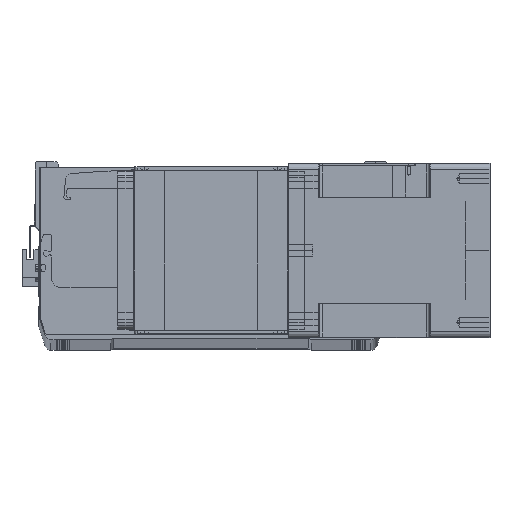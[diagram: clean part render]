
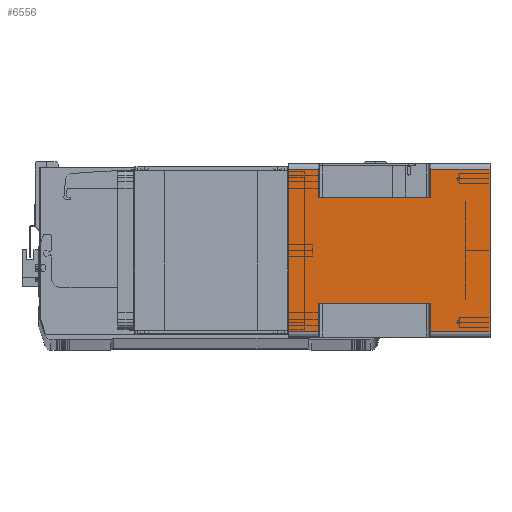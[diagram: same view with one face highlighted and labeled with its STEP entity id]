
A CAD part, top view. The second image highlights one B-rep face of the part: STEP entity #6556.
In plain terms, the highlighted planar face has unit normal (0, 0, 1) as drawn and (1, 0, 0) by its records, which use the part's own axes.
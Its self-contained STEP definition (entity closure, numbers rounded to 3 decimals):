
#53 = DIRECTION ( 'NONE',  ( 0., 0., 1. ) ) ;
#680 = LINE ( 'NONE', #38844, #35546 ) ;
#1042 = CARTESIAN_POINT ( 'NONE',  ( 71., -66., -164. ) ) ;
#1490 = LINE ( 'NONE', #23153, #29706 ) ;
#1500 = EDGE_LOOP ( 'NONE', ( #7683, #23819, #29320, #33202, #27068, #39088, #6094, #16260, #25623, #6591, #22210, #28171 ) ) ;
#2055 = VERTEX_POINT ( 'NONE', #28089 ) ;
#3622 = CARTESIAN_POINT ( 'NONE',  ( 71., -66., -164. ) ) ;
#3851 = LINE ( 'NONE', #26283, #10517 ) ;
#3882 = CARTESIAN_POINT ( 'NONE',  ( 71., 66., -164. ) ) ;
#3993 = VERTEX_POINT ( 'NONE', #18319 ) ;
#4621 = FACE_OUTER_BOUND ( 'NONE', #1500, .T. ) ;
#5168 = EDGE_CURVE ( 'NONE', #36442, #3993, #16822, .T. ) ;
#5314 = VECTOR ( 'NONE', #16367, 1000. ) ;
#5586 = DIRECTION ( 'NONE',  ( 0., -1., 0. ) ) ;
#5985 = VECTOR ( 'NONE', #18764, 1000. ) ;
#6094 = ORIENTED_EDGE ( 'NONE', *, *, #35325, .F. ) ;
#6556 = ADVANCED_FACE ( 'NONE', ( #4621 ), #25489, .T. ) ;
#6591 = ORIENTED_EDGE ( 'NONE', *, *, #35686, .F. ) ;
#6597 = CARTESIAN_POINT ( 'NONE',  ( 71., 66., -164. ) ) ;
#6724 = LINE ( 'NONE', #18343, #10075 ) ;
#7111 = DIRECTION ( 'NONE',  ( 1., 0., 0. ) ) ;
#7683 = ORIENTED_EDGE ( 'NONE', *, *, #10750, .F. ) ;
#7939 = VERTEX_POINT ( 'NONE', #3882 ) ;
#8085 = EDGE_CURVE ( 'NONE', #3993, #30869, #680, .T. ) ;
#8109 = CARTESIAN_POINT ( 'NONE',  ( 71., -43., -24.5 ) ) ;
#9339 = VERTEX_POINT ( 'NONE', #24536 ) ;
#9506 = EDGE_CURVE ( 'NONE', #30800, #24972, #1490, .T. ) ;
#10075 = VECTOR ( 'NONE', #24541, 1000. ) ;
#10321 = DIRECTION ( 'NONE',  ( 0., 1., 0. ) ) ;
#10517 = VECTOR ( 'NONE', #14211, 1000. ) ;
#10750 = EDGE_CURVE ( 'NONE', #2055, #37902, #3851, .T. ) ;
#11276 = CARTESIAN_POINT ( 'NONE',  ( 71., -66., -115.5 ) ) ;
#11720 = CARTESIAN_POINT ( 'NONE',  ( 71., 43., -115.5 ) ) ;
#12377 = VECTOR ( 'NONE', #10321, 1000. ) ;
#13240 = CARTESIAN_POINT ( 'NONE',  ( 71., -43., -24.5 ) ) ;
#13512 = DIRECTION ( 'NONE',  ( 0., 1., 0. ) ) ;
#14211 = DIRECTION ( 'NONE',  ( 0., 0., 1. ) ) ;
#15175 = VECTOR ( 'NONE', #22032, 1000. ) ;
#15192 = VERTEX_POINT ( 'NONE', #37677 ) ;
#15837 = CARTESIAN_POINT ( 'NONE',  ( 71., 43., -164. ) ) ;
#16191 = VECTOR ( 'NONE', #53, 1000. ) ;
#16260 = ORIENTED_EDGE ( 'NONE', *, *, #5168, .T. ) ;
#16367 = DIRECTION ( 'NONE',  ( 0., 1., 0. ) ) ;
#16557 = DIRECTION ( 'NONE',  ( 0., -1., 0. ) ) ;
#16769 = AXIS2_PLACEMENT_3D ( 'NONE', #25368, #7111, #13512 ) ;
#16822 = LINE ( 'NONE', #19975, #38819 ) ;
#16871 = CARTESIAN_POINT ( 'NONE',  ( 71., -66., 0. ) ) ;
#17082 = LINE ( 'NONE', #6597, #15175 ) ;
#18128 = LINE ( 'NONE', #3622, #16191 ) ;
#18319 = CARTESIAN_POINT ( 'NONE',  ( 71., 66., -24.5 ) ) ;
#18343 = CARTESIAN_POINT ( 'NONE',  ( 71., -66., -164. ) ) ;
#18764 = DIRECTION ( 'NONE',  ( 0., 0., -1. ) ) ;
#19344 = EDGE_CURVE ( 'NONE', #27756, #35079, #6724, .T. ) ;
#19975 = CARTESIAN_POINT ( 'NONE',  ( 71., -66., -24.5 ) ) ;
#20393 = LINE ( 'NONE', #23557, #27585 ) ;
#21440 = CARTESIAN_POINT ( 'NONE',  ( 71., -66., -164. ) ) ;
#22032 = DIRECTION ( 'NONE',  ( 0., 0., 1. ) ) ;
#22210 = ORIENTED_EDGE ( 'NONE', *, *, #34520, .F. ) ;
#23070 = DIRECTION ( 'NONE',  ( 0., 1., 0. ) ) ;
#23153 = CARTESIAN_POINT ( 'NONE',  ( 71., 43., -115.5 ) ) ;
#23217 = VECTOR ( 'NONE', #23070, 1000. ) ;
#23557 = CARTESIAN_POINT ( 'NONE',  ( 71., -66., -115.5 ) ) ;
#23819 = ORIENTED_EDGE ( 'NONE', *, *, #26583, .T. ) ;
#24033 = LINE ( 'NONE', #1042, #5314 ) ;
#24536 = CARTESIAN_POINT ( 'NONE',  ( 71., -66., 0. ) ) ;
#24541 = DIRECTION ( 'NONE',  ( 0., 0., 1. ) ) ;
#24972 = VERTEX_POINT ( 'NONE', #11720 ) ;
#25184 = LINE ( 'NONE', #15837, #5985 ) ;
#25261 = CARTESIAN_POINT ( 'NONE',  ( 71., 43., -24.5 ) ) ;
#25368 = CARTESIAN_POINT ( 'NONE',  ( 71., -66., -164. ) ) ;
#25489 = PLANE ( 'NONE',  #16769 ) ;
#25623 = ORIENTED_EDGE ( 'NONE', *, *, #8085, .T. ) ;
#26283 = CARTESIAN_POINT ( 'NONE',  ( 71., -43., -164. ) ) ;
#26583 = EDGE_CURVE ( 'NONE', #2055, #35079, #20393, .T. ) ;
#27068 = ORIENTED_EDGE ( 'NONE', *, *, #34945, .T. ) ;
#27585 = VECTOR ( 'NONE', #5586, 1000. ) ;
#27756 = VERTEX_POINT ( 'NONE', #21440 ) ;
#28089 = CARTESIAN_POINT ( 'NONE',  ( 71., -43., -115.5 ) ) ;
#28171 = ORIENTED_EDGE ( 'NONE', *, *, #37038, .T. ) ;
#29127 = CARTESIAN_POINT ( 'NONE',  ( 71., 66., -115.5 ) ) ;
#29320 = ORIENTED_EDGE ( 'NONE', *, *, #19344, .F. ) ;
#29706 = VECTOR ( 'NONE', #16557, 1000. ) ;
#30155 = LINE ( 'NONE', #13240, #12377 ) ;
#30800 = VERTEX_POINT ( 'NONE', #29127 ) ;
#30869 = VERTEX_POINT ( 'NONE', #31789 ) ;
#31301 = LINE ( 'NONE', #16871, #23217 ) ;
#31789 = CARTESIAN_POINT ( 'NONE',  ( 71., 66., 0. ) ) ;
#32511 = DIRECTION ( 'NONE',  ( 0., 1., 0. ) ) ;
#33202 = ORIENTED_EDGE ( 'NONE', *, *, #38557, .T. ) ;
#34520 = EDGE_CURVE ( 'NONE', #15192, #9339, #18128, .T. ) ;
#34945 = EDGE_CURVE ( 'NONE', #7939, #30800, #17082, .T. ) ;
#35079 = VERTEX_POINT ( 'NONE', #11276 ) ;
#35325 = EDGE_CURVE ( 'NONE', #36442, #24972, #25184, .T. ) ;
#35546 = VECTOR ( 'NONE', #35796, 1000. ) ;
#35686 = EDGE_CURVE ( 'NONE', #9339, #30869, #31301, .T. ) ;
#35796 = DIRECTION ( 'NONE',  ( 0., 0., 1. ) ) ;
#36442 = VERTEX_POINT ( 'NONE', #25261 ) ;
#37038 = EDGE_CURVE ( 'NONE', #15192, #37902, #30155, .T. ) ;
#37677 = CARTESIAN_POINT ( 'NONE',  ( 71., -66., -24.5 ) ) ;
#37902 = VERTEX_POINT ( 'NONE', #8109 ) ;
#38557 = EDGE_CURVE ( 'NONE', #27756, #7939, #24033, .T. ) ;
#38819 = VECTOR ( 'NONE', #32511, 1000. ) ;
#38844 = CARTESIAN_POINT ( 'NONE',  ( 71., 66., -164. ) ) ;
#39088 = ORIENTED_EDGE ( 'NONE', *, *, #9506, .T. ) ;
